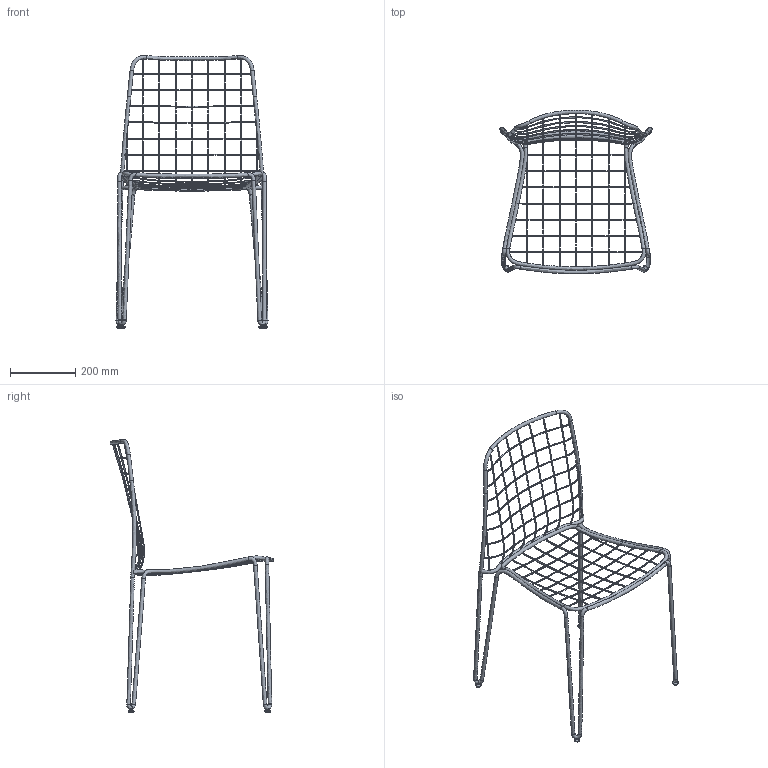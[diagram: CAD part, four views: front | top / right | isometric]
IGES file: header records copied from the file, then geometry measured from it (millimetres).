
Global section: file name: CI-A04C; native system: Autodesk Inventor 2022; preprocessor: unknown; author: Administrator; date: 20211124.133332; units: millimetre
Bounding box: 465.15 x 500.25 x 834.95 mm (x, y, z)
Volume: 815375.7 mm3; surface area: 376824.8 mm2
Topology: 40 solids, 40 shells, 179 faces, 329 edges, 229 vertices
Faces by surface type: bspline 179
